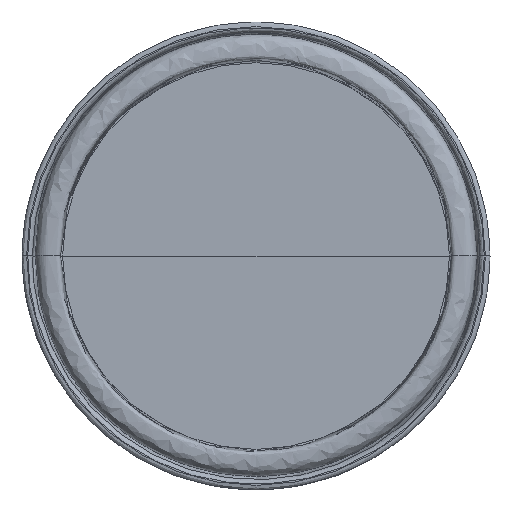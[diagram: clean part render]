
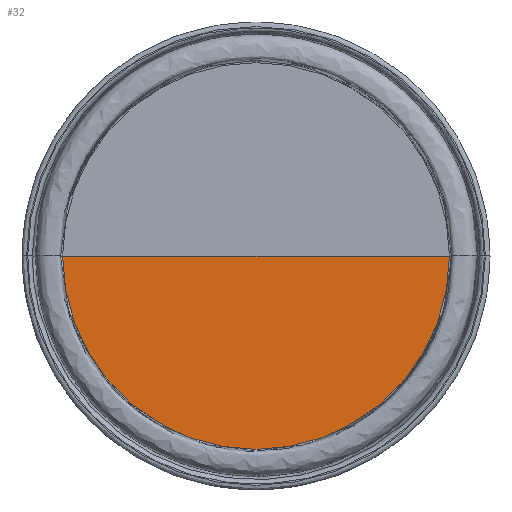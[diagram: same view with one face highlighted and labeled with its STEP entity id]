
A CAD part, top view. The second image highlights one B-rep face of the part: STEP entity #32.
In plain terms, the highlighted planar face has unit normal (0, 0, 1).
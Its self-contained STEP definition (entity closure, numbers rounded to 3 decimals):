
#32=ADVANCED_FACE('',(#58),#362,.T.);
#58=FACE_OUTER_BOUND('',#84,.T.);
#84=EDGE_LOOP('',(#154,#155,#156));
#154=ORIENTED_EDGE('',*,*,#229,.T.);
#155=ORIENTED_EDGE('',*,*,#221,.F.);
#156=ORIENTED_EDGE('',*,*,#225,.T.);
#221=EDGE_CURVE('',#332,#331,#309,.T.);
#225=EDGE_CURVE('',#332,#336,#256,.T.);
#229=EDGE_CURVE('',#336,#331,#311,.T.);
#256=TRIMMED_CURVE($,#284,(#2260),(#2261),.T.,.CARTESIAN.);
#284=CIRCLE('',#482,168.5);
#309=(
BOUNDED_CURVE()
B_SPLINE_CURVE(2,(#2231,#2232,#2233),.UNSPECIFIED.,.F.,.F.)
B_SPLINE_CURVE_WITH_KNOTS((3,3),(2365.115,2533.615),
 .UNSPECIFIED.)
CURVE()
GEOMETRIC_REPRESENTATION_ITEM()
RATIONAL_B_SPLINE_CURVE((1.,1.,1.))
REPRESENTATION_ITEM('')
);
#311=(
BOUNDED_CURVE()
B_SPLINE_CURVE(1,(#2271,#2272),.UNSPECIFIED.,.F.,.F.)
B_SPLINE_CURVE_WITH_KNOTS((2,2),(2365.115,2533.615),
 .UNSPECIFIED.)
CURVE()
GEOMETRIC_REPRESENTATION_ITEM()
RATIONAL_B_SPLINE_CURVE((1.,1.))
REPRESENTATION_ITEM('')
);
#331=VERTEX_POINT('',#2219);
#332=VERTEX_POINT('',#2220);
#336=VERTEX_POINT('',#2224);
#362=PLANE('',#476);
#476=AXIS2_PLACEMENT_3D('',#1964,#533,$);
#482=AXIS2_PLACEMENT_3D($,#2259,#541,#542);
#533=DIRECTION('',(0.,0.,1.));
#541=DIRECTION('',(0.,0.,1.));
#542=DIRECTION('',(-1.,0.,0.));
#1964=CARTESIAN_POINT('',(-707.731,646.166,13.922));
#2219=CARTESIAN_POINT('',(-537.231,646.166,13.922));
#2220=CARTESIAN_POINT('',(-705.731,646.166,13.922));
#2224=CARTESIAN_POINT('',(-368.731,646.166,13.922));
#2231=CARTESIAN_POINT('',(-705.731,646.166,13.922));
#2232=CARTESIAN_POINT('',(-621.481,646.166,13.922));
#2233=CARTESIAN_POINT('',(-537.231,646.166,13.922));
#2259=CARTESIAN_POINT('',(-537.231,646.166,13.922));
#2260=CARTESIAN_POINT('',(-705.731,646.166,13.922));
#2261=CARTESIAN_POINT('',(-368.731,646.166,13.922));
#2271=CARTESIAN_POINT('',(-368.731,646.166,13.922));
#2272=CARTESIAN_POINT('',(-537.231,646.166,13.922));
